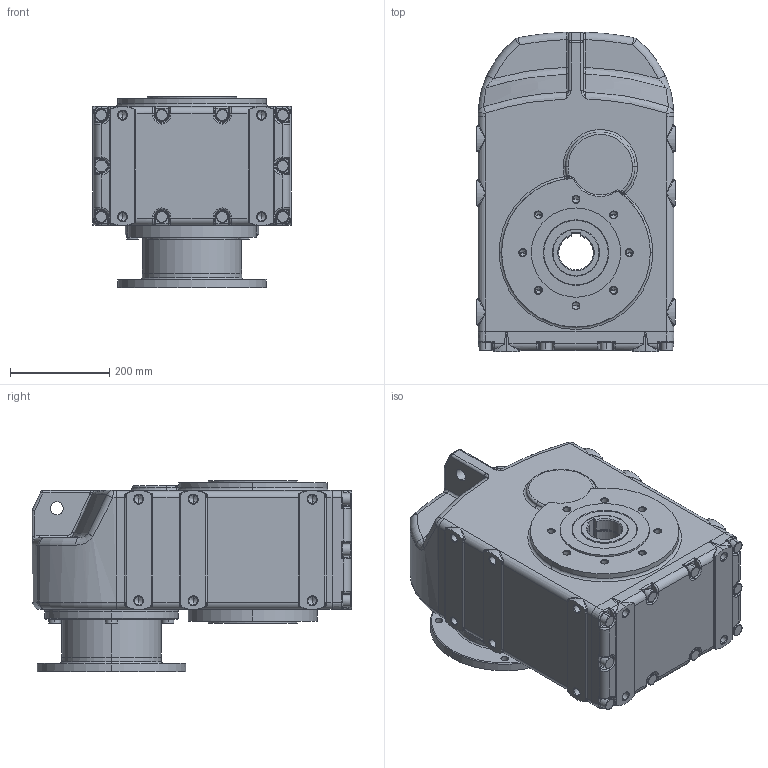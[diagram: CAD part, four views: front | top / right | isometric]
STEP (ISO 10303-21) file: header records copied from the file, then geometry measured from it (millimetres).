
FILE_DESCRIPTION (( 'STEP AP214' ), '1' );
FILE_NAME ('tnc63-f265-ap132.STEP', '2009-09-17T11:01:54', ( '' ), ( '' ), 'SwSTEP 2.0', 'SolidWorks 2003240', '' );
FILE_SCHEMA (( 'AUTOMOTIVE_DESIGN' ));
Length unit declared in the file: millimetre
Products named in the file (4): Skøíò TNC6_Skøíò TNC63 AP132; Pøíruba MTC72A kulatá _230-265-300; tnc63-f265-ap132; D6912_Šroub DIN 6912 - M14x35
Assembly tree (8 placements, depth 2):
  tnc63-f265-ap132
    Pøíruba MTC72A kulatá _230-265-300
    Skøíò TNC6_Skøíò TNC63 AP132
    D6912_Šroub DIN 6912 - M14x35  x6
Bounding box: 400 x 645 x 387 mm (x, y, z)
Volume: 61512151.5 mm3; surface area: 1387134.8 mm2
Topology: 8 solids, 8 shells, 1259 faces, 2839 edges, 1540 vertices
Faces by surface type: cylinder 425, plane 251, cone 224, bspline 176, torus 170, sphere 13
Entity records: 132697 total; most frequent: CARTESIAN_POINT 108588, DIRECTION 5078, ORIENTED_EDGE 4770, EDGE_CURVE 2385, AXIS2_PLACEMENT_3D 2118, VERTEX_POINT 1385, CIRCLE 1209, EDGE_LOOP 1168
